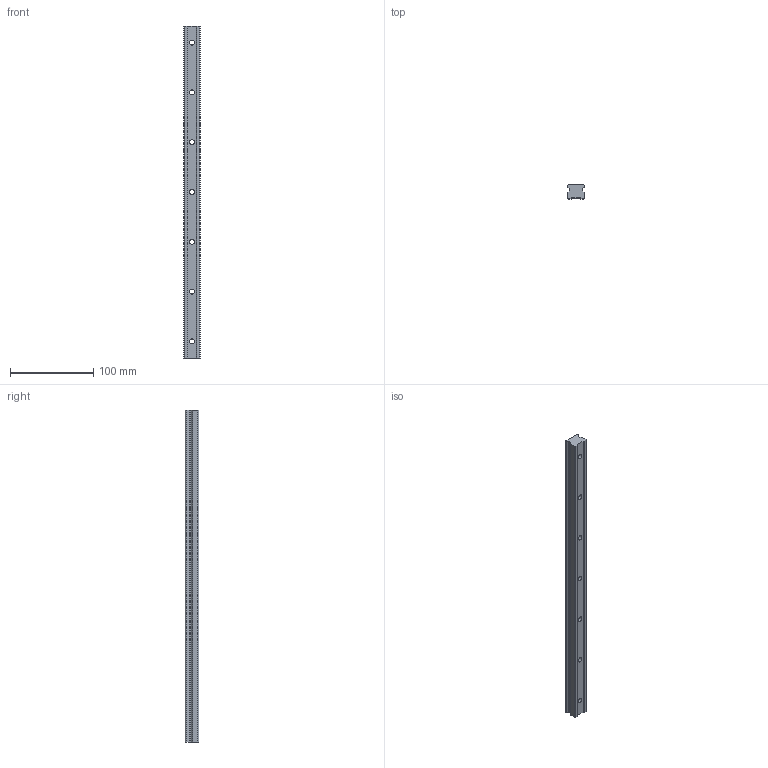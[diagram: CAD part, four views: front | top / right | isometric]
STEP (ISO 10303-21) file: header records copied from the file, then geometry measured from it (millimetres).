
FILE_DESCRIPTION (( 'STEP AP203' ), '1' );
FILE_NAME ('L1016.BL20-0400.step', '2019-06-12T11:46:16', ( '' ), ( '' ), 'SwSTEP 2.0', 'SolidWorks 2017', '' );
FILE_SCHEMA (( 'CONFIG_CONTROL_DESIGN' ));
Length unit declared in the file: millimetre
Products named in the file (1): L1016.BL20-0400
Bounding box: 20 x 16.3 x 400 mm (x, y, z)
Volume: 110960 mm3; surface area: 32771.5 mm2
Topology: 1 solids, 1 shells, 61 faces, 156 edges, 104 vertices
Faces by surface type: cylinder 32, plane 29
Entity records: 1979 total; most frequent: DIRECTION 344, CARTESIAN_POINT 322, ORIENTED_EDGE 312, EDGE_CURVE 156, AXIS2_PLACEMENT_3D 126, VERTEX_POINT 104, LINE 92, VECTOR 92
